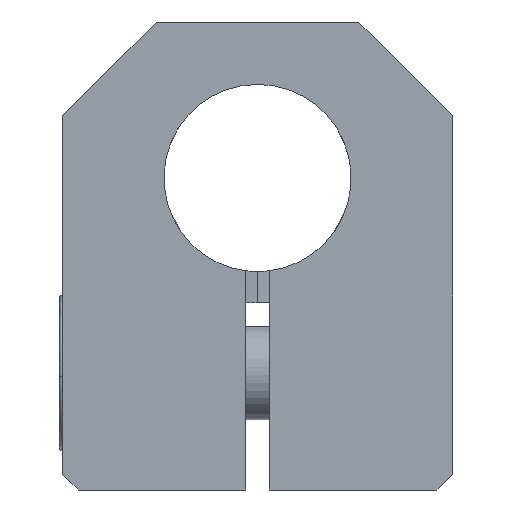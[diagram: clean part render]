
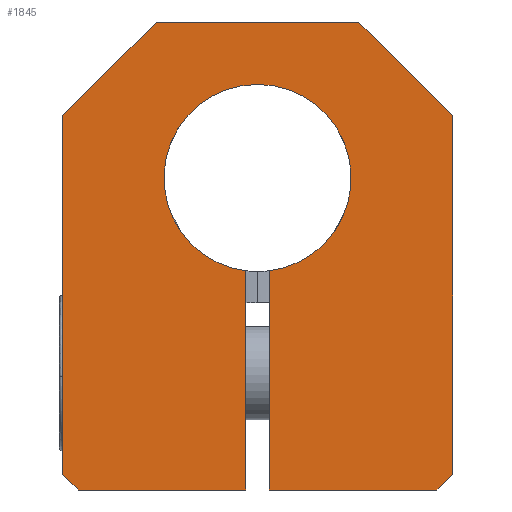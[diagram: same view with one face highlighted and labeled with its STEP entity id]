
A CAD part, left-side view. The second image highlights one B-rep face of the part: STEP entity #1845.
In plain terms, the highlighted planar face has unit normal (-1, 0, 0).
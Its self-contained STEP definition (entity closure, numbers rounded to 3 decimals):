
#98 = CARTESIAN_POINT ( 'NONE',  ( -73.152, 28.731, 15. ) ) ;
#813 = DIRECTION ( 'NONE',  ( 0., 0., -1. ) ) ;
#838 = DIRECTION ( 'NONE',  ( 0., 0., -1. ) ) ;
#1436 = CARTESIAN_POINT ( 'NONE',  ( -73.152, 35.231, 15. ) ) ;
#1833 = ORIENTED_EDGE ( 'NONE', *, *, #16145, .T. ) ;
#1845 = ADVANCED_FACE ( 'NONE', ( #14718 ), #6304, .F. ) ;
#2046 = ORIENTED_EDGE ( 'NONE', *, *, #18214, .F. ) ;
#2047 = VECTOR ( 'NONE', #13793, 1000. ) ;
#2113 = DIRECTION ( 'NONE',  ( 0., -0.707, -0.707 ) ) ;
#2204 = EDGE_CURVE ( 'NONE', #12464, #16211, #15520, .T. ) ;
#2320 = EDGE_CURVE ( 'NONE', #14555, #14745, #14970, .T. ) ;
#2438 = CARTESIAN_POINT ( 'NONE',  ( -73.152, 35.231, -15. ) ) ;
#2521 = ORIENTED_EDGE ( 'NONE', *, *, #2320, .F. ) ;
#2548 = EDGE_LOOP ( 'NONE', ( #5593, #16713, #2046, #2521, #3003, #18115, #3955, #7757, #8195, #4890, #5364, #1833, #5833 ) ) ;
#2735 = EDGE_CURVE ( 'NONE', #18481, #17388, #11237, .T. ) ;
#3003 = ORIENTED_EDGE ( 'NONE', *, *, #7390, .F. ) ;
#3291 = AXIS2_PLACEMENT_3D ( 'NONE', #13274, #4917, #14716 ) ;
#3374 = DIRECTION ( 'NONE',  ( 0., 0., 1. ) ) ;
#3378 = CARTESIAN_POINT ( 'NONE',  ( -73.152, 47.231, -14.5 ) ) ;
#3561 = CARTESIAN_POINT ( 'NONE',  ( -73.152, 35.231, 5. ) ) ;
#3652 = CARTESIAN_POINT ( 'NONE',  ( -73.152, 34.481, -7.976 ) ) ;
#3729 = LINE ( 'NONE', #3652, #8863 ) ;
#3955 = ORIENTED_EDGE ( 'NONE', *, *, #5872, .F. ) ;
#4077 = EDGE_CURVE ( 'NONE', #4158, #11677, #7553, .T. ) ;
#4158 = VERTEX_POINT ( 'NONE', #13645 ) ;
#4890 = ORIENTED_EDGE ( 'NONE', *, *, #10542, .F. ) ;
#4917 = DIRECTION ( 'NONE',  ( 1., 0., 0. ) ) ;
#5026 = CARTESIAN_POINT ( 'NONE',  ( -73.152, 28.731, 15. ) ) ;
#5060 = DIRECTION ( 'NONE',  ( 0., 0., -1. ) ) ;
#5274 = VECTOR ( 'NONE', #16087, 1000. ) ;
#5364 = ORIENTED_EDGE ( 'NONE', *, *, #17465, .F. ) ;
#5593 = ORIENTED_EDGE ( 'NONE', *, *, #14096, .F. ) ;
#5612 = DIRECTION ( 'NONE',  ( 0., 0.707, -0.707 ) ) ;
#5833 = ORIENTED_EDGE ( 'NONE', *, *, #4077, .F. ) ;
#5872 = EDGE_CURVE ( 'NONE', #17388, #12464, #8406, .T. ) ;
#6007 = DIRECTION ( 'NONE',  ( 0., 0., 1. ) ) ;
#6304 = PLANE ( 'NONE',  #3291 ) ;
#6862 = CARTESIAN_POINT ( 'NONE',  ( -73.152, 46.731, -15. ) ) ;
#7095 = DIRECTION ( 'NONE',  ( 0., 1., 0. ) ) ;
#7390 = EDGE_CURVE ( 'NONE', #16211, #14555, #15796, .T. ) ;
#7553 = CIRCLE ( 'NONE', #16116, 6. ) ;
#7640 = CARTESIAN_POINT ( 'NONE',  ( -73.152, 35.981, -0.953 ) ) ;
#7757 = ORIENTED_EDGE ( 'NONE', *, *, #2735, .F. ) ;
#8026 = CARTESIAN_POINT ( 'NONE',  ( -73.152, 41.731, 15. ) ) ;
#8094 = VECTOR ( 'NONE', #2113, 1000. ) ;
#8195 = ORIENTED_EDGE ( 'NONE', *, *, #16616, .F. ) ;
#8406 = LINE ( 'NONE', #1436, #15828 ) ;
#8534 = AXIS2_PLACEMENT_3D ( 'NONE', #17969, #9527, #838 ) ;
#8682 = DIRECTION ( 'NONE',  ( 0., -1., 0. ) ) ;
#8863 = VECTOR ( 'NONE', #13480, 1000. ) ;
#8966 = VECTOR ( 'NONE', #3374, 1000. ) ;
#9422 = LINE ( 'NONE', #3378, #5274 ) ;
#9527 = DIRECTION ( 'NONE',  ( -1., 0., 0. ) ) ;
#10415 = VERTEX_POINT ( 'NONE', #11704 ) ;
#10542 = EDGE_CURVE ( 'NONE', #15101, #13305, #9422, .T. ) ;
#11237 = LINE ( 'NONE', #18306, #14936 ) ;
#11268 = VECTOR ( 'NONE', #5612, 1000. ) ;
#11345 = LINE ( 'NONE', #14345, #12631 ) ;
#11586 = CARTESIAN_POINT ( 'NONE',  ( -73.152, 23.731, -15. ) ) ;
#11677 = VERTEX_POINT ( 'NONE', #7640 ) ;
#11704 = CARTESIAN_POINT ( 'NONE',  ( -73.152, 35.981, -15. ) ) ;
#12084 = VECTOR ( 'NONE', #813, 1000. ) ;
#12433 = CARTESIAN_POINT ( 'NONE',  ( -73.152, 22.731, -14. ) ) ;
#12464 = VERTEX_POINT ( 'NONE', #98 ) ;
#12631 = VECTOR ( 'NONE', #6007, 1000. ) ;
#12659 = LINE ( 'NONE', #14668, #8966 ) ;
#12697 = VECTOR ( 'NONE', #7095, 1000. ) ;
#13274 = CARTESIAN_POINT ( 'NONE',  ( -73.152, 22.731, 15. ) ) ;
#13305 = VERTEX_POINT ( 'NONE', #14621 ) ;
#13318 = CARTESIAN_POINT ( 'NONE',  ( -73.152, 47.731, 9. ) ) ;
#13351 = CARTESIAN_POINT ( 'NONE',  ( -73.152, 22.731, 9. ) ) ;
#13397 = DIRECTION ( 'NONE',  ( -1., 0., 0. ) ) ;
#13480 = DIRECTION ( 'NONE',  ( 0., 0., -1. ) ) ;
#13645 = CARTESIAN_POINT ( 'NONE',  ( -73.152, 35.231, 11. ) ) ;
#13793 = DIRECTION ( 'NONE',  ( 0., 1., 0. ) ) ;
#13843 = LINE ( 'NONE', #2438, #2047 ) ;
#14096 = EDGE_CURVE ( 'NONE', #16069, #4158, #18003, .T. ) ;
#14345 = CARTESIAN_POINT ( 'NONE',  ( -73.152, 47.731, 0. ) ) ;
#14392 = VERTEX_POINT ( 'NONE', #17566 ) ;
#14555 = VERTEX_POINT ( 'NONE', #12433 ) ;
#14621 = CARTESIAN_POINT ( 'NONE',  ( -73.152, 47.731, -14. ) ) ;
#14668 = CARTESIAN_POINT ( 'NONE',  ( -73.152, 35.981, -7.976 ) ) ;
#14716 = DIRECTION ( 'NONE',  ( 0., 0., -1. ) ) ;
#14718 = FACE_OUTER_BOUND ( 'NONE', #2548, .T. ) ;
#14745 = VERTEX_POINT ( 'NONE', #11586 ) ;
#14936 = VECTOR ( 'NONE', #16744, 1000. ) ;
#14970 = LINE ( 'NONE', #15341, #11268 ) ;
#15101 = VERTEX_POINT ( 'NONE', #6862 ) ;
#15341 = CARTESIAN_POINT ( 'NONE',  ( -73.152, 22.731, -14. ) ) ;
#15441 = CARTESIAN_POINT ( 'NONE',  ( -73.152, 29.106, -15. ) ) ;
#15520 = LINE ( 'NONE', #5026, #8094 ) ;
#15796 = LINE ( 'NONE', #16464, #12084 ) ;
#15828 = VECTOR ( 'NONE', #8682, 1000. ) ;
#16069 = VERTEX_POINT ( 'NONE', #17275 ) ;
#16087 = DIRECTION ( 'NONE',  ( 0., 0.707, 0.707 ) ) ;
#16116 = AXIS2_PLACEMENT_3D ( 'NONE', #3561, #13397, #5060 ) ;
#16145 = EDGE_CURVE ( 'NONE', #10415, #11677, #12659, .T. ) ;
#16211 = VERTEX_POINT ( 'NONE', #13351 ) ;
#16464 = CARTESIAN_POINT ( 'NONE',  ( -73.152, 22.731, 0. ) ) ;
#16616 = EDGE_CURVE ( 'NONE', #13305, #18481, #11345, .T. ) ;
#16713 = ORIENTED_EDGE ( 'NONE', *, *, #17332, .T. ) ;
#16744 = DIRECTION ( 'NONE',  ( 0., -0.707, 0.707 ) ) ;
#16886 = LINE ( 'NONE', #15441, #12697 ) ;
#17275 = CARTESIAN_POINT ( 'NONE',  ( -73.152, 34.481, -0.953 ) ) ;
#17332 = EDGE_CURVE ( 'NONE', #16069, #14392, #3729, .T. ) ;
#17388 = VERTEX_POINT ( 'NONE', #8026 ) ;
#17465 = EDGE_CURVE ( 'NONE', #10415, #15101, #13843, .T. ) ;
#17566 = CARTESIAN_POINT ( 'NONE',  ( -73.152, 34.481, -15. ) ) ;
#17969 = CARTESIAN_POINT ( 'NONE',  ( -73.152, 35.231, 5. ) ) ;
#18003 = CIRCLE ( 'NONE', #8534, 6. ) ;
#18115 = ORIENTED_EDGE ( 'NONE', *, *, #2204, .F. ) ;
#18214 = EDGE_CURVE ( 'NONE', #14745, #14392, #16886, .T. ) ;
#18306 = CARTESIAN_POINT ( 'NONE',  ( -73.152, 41.731, 15. ) ) ;
#18481 = VERTEX_POINT ( 'NONE', #13318 ) ;
